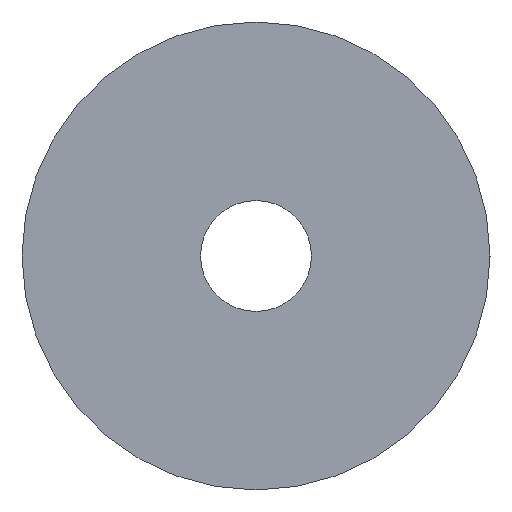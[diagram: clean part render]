
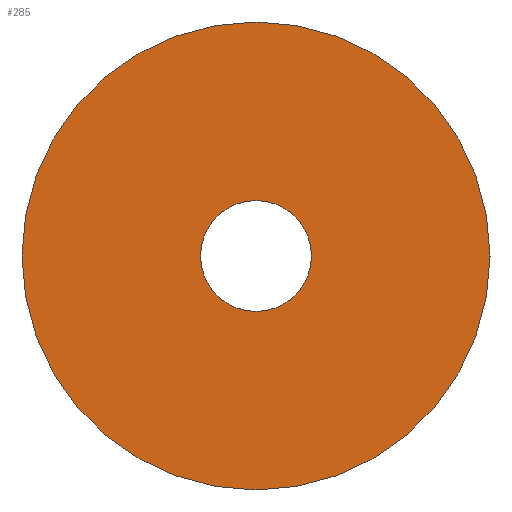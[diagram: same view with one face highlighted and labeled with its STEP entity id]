
A CAD part, left-side view. The second image highlights one B-rep face of the part: STEP entity #285.
In plain terms, the highlighted planar face has unit normal (-1, 0, 0).
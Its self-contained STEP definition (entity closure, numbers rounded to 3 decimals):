
#129 = CYLINDRICAL_SURFACE('',#130,18.);
#130 = AXIS2_PLACEMENT_3D('',#131,#132,#133);
#131 = CARTESIAN_POINT('',(558.,550.,1185.));
#132 = DIRECTION('',(1.,0.,0.));
#133 = DIRECTION('',(-0.,0.,1.));
#181 = VERTEX_POINT('',#182);
#182 = CARTESIAN_POINT('',(560.,550.,1203.));
#203 = EDGE_CURVE('',#181,#181,#204,.T.);
#204 = SURFACE_CURVE('',#205,(#210,#217),.PCURVE_S1.);
#205 = CIRCLE('',#206,18.);
#206 = AXIS2_PLACEMENT_3D('',#207,#208,#209);
#207 = CARTESIAN_POINT('',(560.,550.,1185.));
#208 = DIRECTION('',(1.,0.,0.));
#209 = DIRECTION('',(-0.,0.,1.));
#210 = PCURVE('',#129,#211);
#211 = DEFINITIONAL_REPRESENTATION('',(#212),#216);
#212 = LINE('',#213,#214);
#213 = CARTESIAN_POINT('',(0.,2.));
#214 = VECTOR('',#215,1.);
#215 = DIRECTION('',(1.,0.));
#216 = ( GEOMETRIC_REPRESENTATION_CONTEXT(2) 
PARAMETRIC_REPRESENTATION_CONTEXT() REPRESENTATION_CONTEXT('2D SPACE',''
  ) );
#217 = PCURVE('',#218,#223);
#218 = PLANE('',#219);
#219 = AXIS2_PLACEMENT_3D('',#220,#221,#222);
#220 = CARTESIAN_POINT('',(560.,550.,1185.));
#221 = DIRECTION('',(1.,0.,0.));
#222 = DIRECTION('',(-0.,0.,1.));
#223 = DEFINITIONAL_REPRESENTATION('',(#224),#228);
#224 = CIRCLE('',#225,18.);
#225 = AXIS2_PLACEMENT_2D('',#226,#227);
#226 = CARTESIAN_POINT('',(0.,0.));
#227 = DIRECTION('',(1.,0.));
#228 = ( GEOMETRIC_REPRESENTATION_CONTEXT(2) 
PARAMETRIC_REPRESENTATION_CONTEXT() REPRESENTATION_CONTEXT('2D SPACE',''
  ) );
#285 = ADVANCED_FACE('',(#286,#317),#218,.F.);
#286 = FACE_BOUND('',#287,.F.);
#287 = EDGE_LOOP('',(#288));
#288 = ORIENTED_EDGE('',*,*,#289,.T.);
#289 = EDGE_CURVE('',#290,#290,#292,.T.);
#290 = VERTEX_POINT('',#291);
#291 = CARTESIAN_POINT('',(560.,550.,1261.));
#292 = SURFACE_CURVE('',#293,(#298,#305),.PCURVE_S1.);
#293 = CIRCLE('',#294,76.);
#294 = AXIS2_PLACEMENT_3D('',#295,#296,#297);
#295 = CARTESIAN_POINT('',(560.,550.,1185.));
#296 = DIRECTION('',(1.,0.,0.));
#297 = DIRECTION('',(-0.,0.,1.));
#298 = PCURVE('',#218,#299);
#299 = DEFINITIONAL_REPRESENTATION('',(#300),#304);
#300 = CIRCLE('',#301,76.);
#301 = AXIS2_PLACEMENT_2D('',#302,#303);
#302 = CARTESIAN_POINT('',(0.,0.));
#303 = DIRECTION('',(1.,0.));
#304 = ( GEOMETRIC_REPRESENTATION_CONTEXT(2) 
PARAMETRIC_REPRESENTATION_CONTEXT() REPRESENTATION_CONTEXT('2D SPACE',''
  ) );
#305 = PCURVE('',#306,#311);
#306 = CYLINDRICAL_SURFACE('',#307,76.);
#307 = AXIS2_PLACEMENT_3D('',#308,#309,#310);
#308 = CARTESIAN_POINT('',(560.,550.,1185.));
#309 = DIRECTION('',(1.,0.,0.));
#310 = DIRECTION('',(-0.,0.,1.));
#311 = DEFINITIONAL_REPRESENTATION('',(#312),#316);
#312 = LINE('',#313,#314);
#313 = CARTESIAN_POINT('',(0.,0.));
#314 = VECTOR('',#315,1.);
#315 = DIRECTION('',(1.,0.));
#316 = ( GEOMETRIC_REPRESENTATION_CONTEXT(2) 
PARAMETRIC_REPRESENTATION_CONTEXT() REPRESENTATION_CONTEXT('2D SPACE',''
  ) );
#317 = FACE_BOUND('',#318,.F.);
#318 = EDGE_LOOP('',(#319));
#319 = ORIENTED_EDGE('',*,*,#203,.F.);
